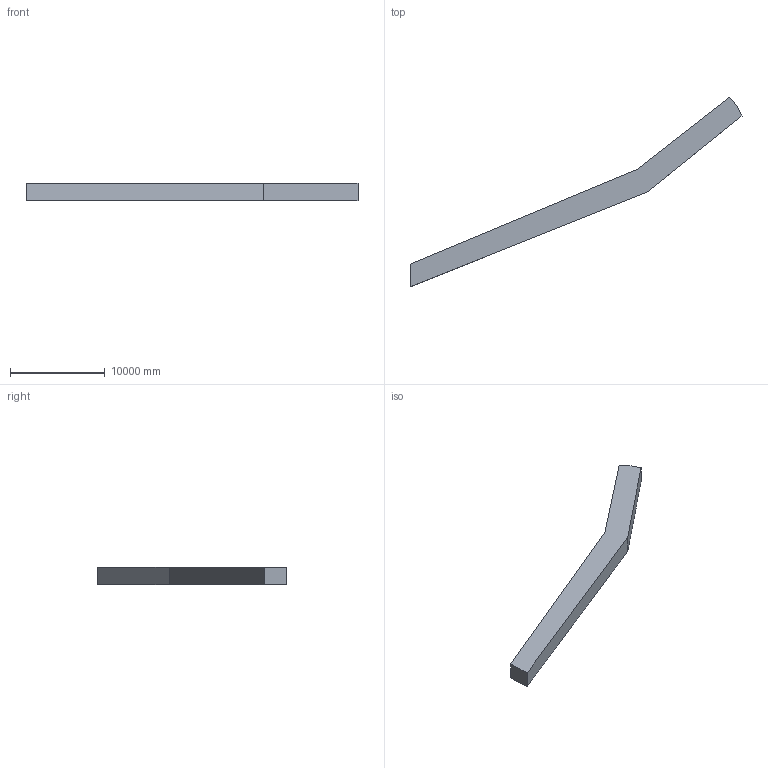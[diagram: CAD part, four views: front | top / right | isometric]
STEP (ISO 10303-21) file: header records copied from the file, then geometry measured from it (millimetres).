
FILE_DESCRIPTION (( 'STEP AP203' ), '1' );
FILE_NAME ('AP_02_Peet_Interplanetary_Sling_Ramp.STEP', '2026-10-28T18:35:48', ( '' ), ( '' ), 'SwSTEP 2.0', 'SolidWorks 2026', '' );
FILE_SCHEMA (( 'CONFIG_CONTROL_DESIGN' ));
Length unit declared in the file: inch
Products named in the file (1): AP_02_Peet_Interplanetary_Sling_Ramp
Bounding box: 35000 x 19988.56 x 1800 mm (x, y, z)
Volume: 169982089032.6 mm3; surface area: 337985144.5 mm2
Topology: 1 solids, 1 shells, 9 faces, 21 edges, 14 vertices
Faces by surface type: plane 9
Entity records: 334 total; most frequent: CARTESIAN_POINT 45, ORIENTED_EDGE 42, DIRECTION 41, EDGE_CURVE 21, VECTOR 21, LINE 21, VERTEX_POINT 14, AXIS2_PLACEMENT_3D 10
